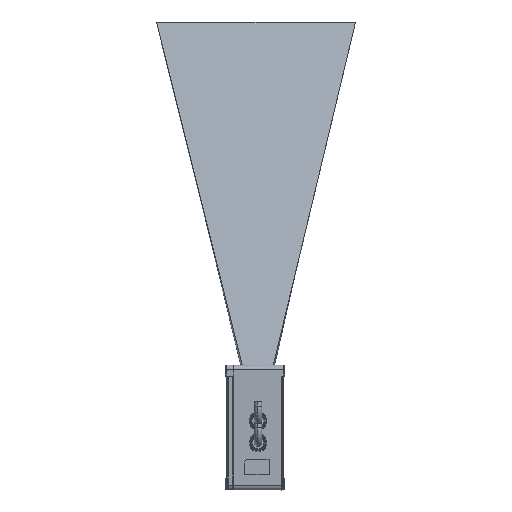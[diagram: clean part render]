
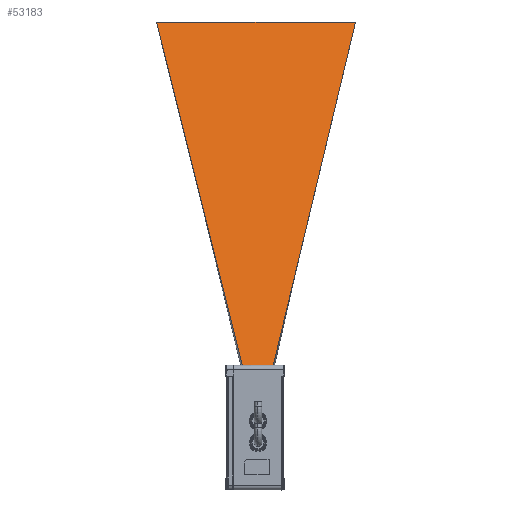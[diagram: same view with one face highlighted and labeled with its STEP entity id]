
A CAD part, left-side view. The second image highlights one B-rep face of the part: STEP entity #53183.
In plain terms, the highlighted planar face has unit normal (0.958, 0, -0.285).
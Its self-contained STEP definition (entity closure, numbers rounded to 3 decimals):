
#53062=DIRECTION('',(-0.277,-0.232,-0.932));
#53063=VECTOR('',#53062,374.176);
#53064=CARTESIAN_POINT('',(-331.575,99.75,
407.5));
#53065=LINE('',#53064,#53063);
#53066=DIRECTION('',(0.,-1.,0.));
#53067=VECTOR('',#53066,29.6);
#53068=CARTESIAN_POINT('',(-435.4,12.8,
58.691));
#53069=LINE('',#53068,#53067);
#53070=DIRECTION('',(0.278,-0.223,0.934));
#53071=VECTOR('',#53070,373.378);
#53072=CARTESIAN_POINT('',(-435.4,-16.8,
58.691));
#53073=LINE('',#53072,#53071);
#53074=DIRECTION('',(0.,1.,0.));
#53075=VECTOR('',#53074,200.);
#53076=CARTESIAN_POINT('',(-331.575,-100.25,407.5));
#53077=LINE('',#53076,#53075);
#53086=CARTESIAN_POINT('',(-435.4,-16.8,
58.691));
#53087=VERTEX_POINT('',#53086);
#53088=CARTESIAN_POINT('',(-435.4,12.8,
58.691));
#53089=VERTEX_POINT('',#53088);
#53094=CARTESIAN_POINT('',(-331.575,99.75,
407.5));
#53095=VERTEX_POINT('',#53094);
#53096=CARTESIAN_POINT('',(-331.575,-100.25,407.5));
#53097=VERTEX_POINT('',#53096);
#53170=CARTESIAN_POINT('',(-383.487,-0.25,
233.095));
#53171=DIRECTION('',(0.958,0.,-0.285));
#53172=DIRECTION('',(0.,-1.,0.));
#53173=AXIS2_PLACEMENT_3D('',#53170,#53171,#53172);
#53174=PLANE('',#53173);
#53176=ORIENTED_EDGE('',*,*,#53175,.T.);
#53178=ORIENTED_EDGE('',*,*,#53177,.T.);
#53179=ORIENTED_EDGE('',*,*,#53161,.T.);
#53180=ORIENTED_EDGE('',*,*,#53107,.T.);
#53181=EDGE_LOOP('',(#53176,#53178,#53179,#53180));
#53182=FACE_OUTER_BOUND('',#53181,.F.);
#53107=EDGE_CURVE('',#53097,#53095,#53077,.T.);
#53161=EDGE_CURVE('',#53087,#53097,#53073,.T.);
#53175=EDGE_CURVE('',#53095,#53089,#53065,.T.);
#53177=EDGE_CURVE('',#53089,#53087,#53069,.T.);
#53183=ADVANCED_FACE('',(#53182),#53174,.T.);
